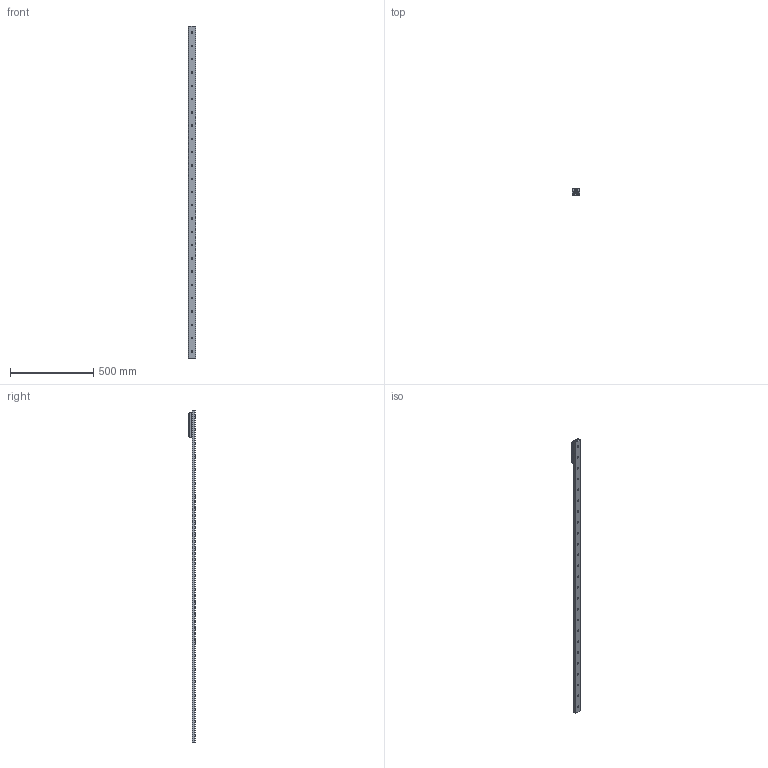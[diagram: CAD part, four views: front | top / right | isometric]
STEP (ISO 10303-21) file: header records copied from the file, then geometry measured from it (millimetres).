
FILE_DESCRIPTION( ( 'STEP AP214' ), '1' );
FILE_NAME( 'p:/temp/worker_34/temp/exporttempdir_3788_126_hu4j7/format_0/TGV-02000_1_RV43G-3.stp', '2021-06-09T19:33:21', ( 'License CC BY-ND 4.0' ), ( 'CADENAS' ), ' ', 'PARTsolutions', ' ' );
FILE_SCHEMA( ( 'AUTOMOTIVE_DESIGN { 1 0 10303 214 1 1 1 1 }' ) );
Length unit declared in the file: millimetre
Products named in the file (6): TGV-02000/1/RV43G-3; _TGV43-2000-(3-1); _RVG43-3-slider; _RGNV43R; _RGAV43R; _WR43G-01
Assembly tree (7 placements, depth 2):
  TGV-02000/1/RV43G-3
    _TGV43-2000-(3-1)
    _RVG43-3-slider
    _RGNV43R  x2
    _RGAV43R
    _WR43G-01  x2
Bounding box: 43 x 37 x 2000 mm (x, y, z)
Volume: 853087.1 mm3; surface area: 343086.5 mm2
Topology: 7 solids, 7 shells, 1091 faces, 2849 edges, 1854 vertices
Faces by surface type: plane 663, cylinder 321, cone 64, bspline 34, torus 9
Full cylindrical faces by diameter (mm): 1.76 x4, 3 x8, 6 x4, 6.647 x4, 6.8 x3, 8 x3, 8.5 x25, 11 x11, 15 x6, 15.5 x1, 18.98 x2, 19 x1, 31.4 x6
Entity records: 26243 total; most frequent: CARTESIAN_POINT 4126, DIRECTION 3517, ORIENTED_EDGE 3214, EDGE_CURVE 1607, AXIS2_PLACEMENT_3D 1355, VERTEX_POINT 1126, EDGE_LOOP 947, LINE 807
